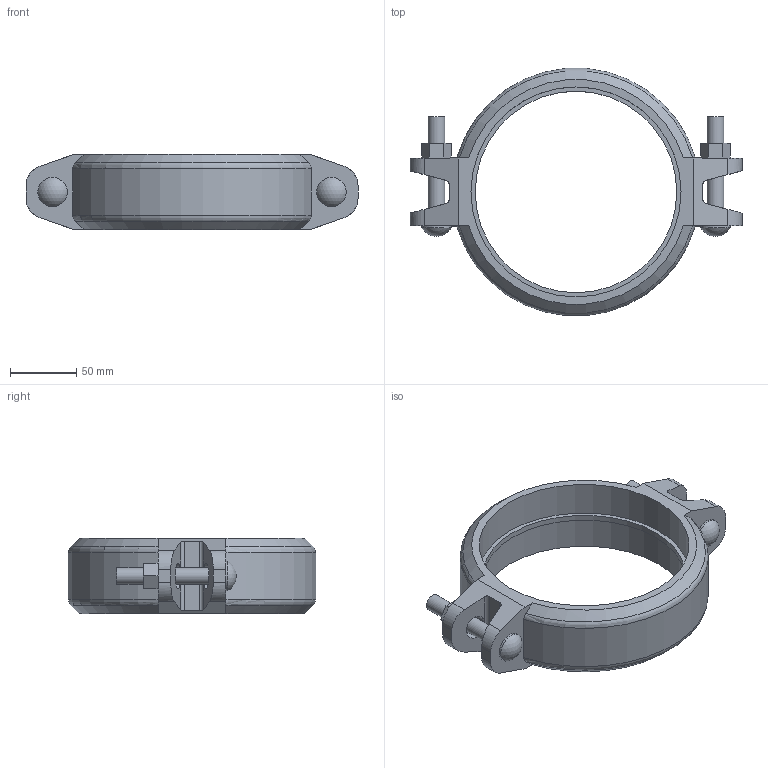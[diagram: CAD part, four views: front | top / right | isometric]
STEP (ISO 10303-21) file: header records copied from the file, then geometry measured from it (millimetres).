
FILE_DESCRIPTION(/* description */ ('VICTAULIC STYLE 009N FIRELOCK EZ RIGID COUPLING','CAx-IF Rec.Pracs.---Representation and Presentation of Product Manufacturing Information (PMI)---4.0---2014-10-13'),/* implementation_level */ '2;1');
FILE_NAME(/* name */ 'C:\Users\Vjadhav\AppData\Roaming\Autodesk\ApplicationPlugins\Victaulic.Temp\A361\Victaulic_FP-FireLock_Coupling Rigid_IR_Style 009N (OGS)_06.0 (159.0) (150).stp',/* time_stamp */ '2022-03-23T18:55:27+05:00',/* author */ ('Vjadhav'),/* organization */ ('Victaulic'),/* preprocessor_version */ 'ST-DEVELOPER v17.2',/* originating_system */ 'Autodesk Inventor 2019',/* authorisation */ '');
FILE_SCHEMA (('AP242_MANAGED_MODEL_BASED_3D_ENGINEERING_MIM_LF { 1 0 10303 442 1 1 4 }'));
Length unit declared in the file: inch
Products named in the file (2): 009N-06.0 (159); 009N-06.25 (159)
Assembly tree (1 placements, depth 2):
  009N-06.0 (159)
    009N-06.25 (159)
Bounding box: 250.95 x 186.76 x 57.15 mm (x, y, z)
Volume: 519512.5 mm3; surface area: 98101.1 mm2
Topology: 1 solids, 1 shells, 91 faces, 263 edges, 178 vertices
Faces by surface type: plane 50, cylinder 31, cone 4, torus 4, sphere 2
Full cylindrical faces by diameter (mm): 12.7 x4, 22.225 x2, 152.4 x1, 158.75 x2
Entity records: 3295 total; most frequent: CARTESIAN_POINT 663, ORIENTED_EDGE 526, DIRECTION 513, EDGE_CURVE 263, AXIS2_PLACEMENT_3D 180, VERTEX_POINT 178, LINE 153, VECTOR 153
